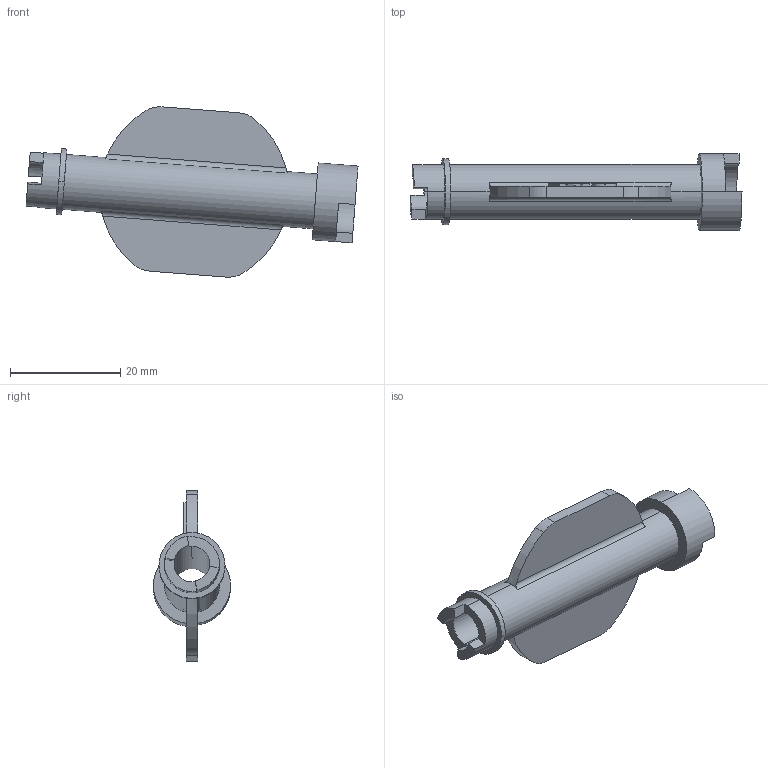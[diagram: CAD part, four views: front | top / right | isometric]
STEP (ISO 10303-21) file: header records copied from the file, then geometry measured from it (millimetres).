
FILE_DESCRIPTION((''),'2;1');
FILE_NAME('0000237123_PRT','2025-11-12T18:33:43',('Wyndorps'),(''),'CREO PARAMETRIC BY PTC INC, 2025010','CREO PARAMETRIC BY PTC INC, 2025010','');
FILE_SCHEMA(('CONFIG_CONTROL_DESIGN'));
Length unit declared in the file: millimetre
Products named in the file (1): 0000237123_PRT
Bounding box: 60.36 x 14 x 30.96 mm (x, y, z)
Volume: 3992.4 mm3; surface area: 4541.3 mm2
Topology: 1 solids, 1 shells, 87 faces, 230 edges, 152 vertices
Faces by surface type: plane 53, cylinder 24, extrusion 10
Entity records: 2883 total; most frequent: CARTESIAN_POINT 698, ORIENTED_EDGE 460, DIRECTION 410, EDGE_CURVE 230, VECTOR 152, VERTEX_POINT 152, LINE 142, AXIS2_PLACEMENT_3D 129
